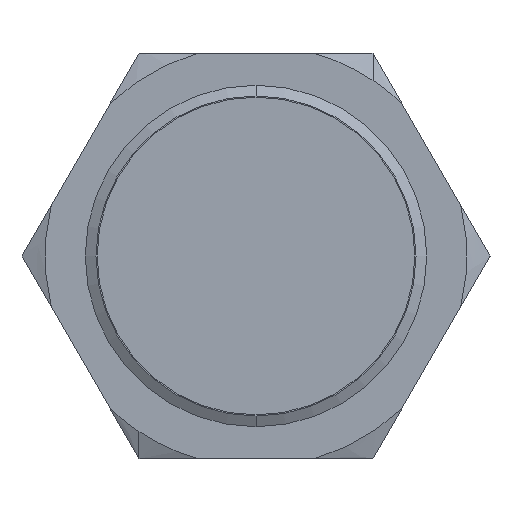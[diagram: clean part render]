
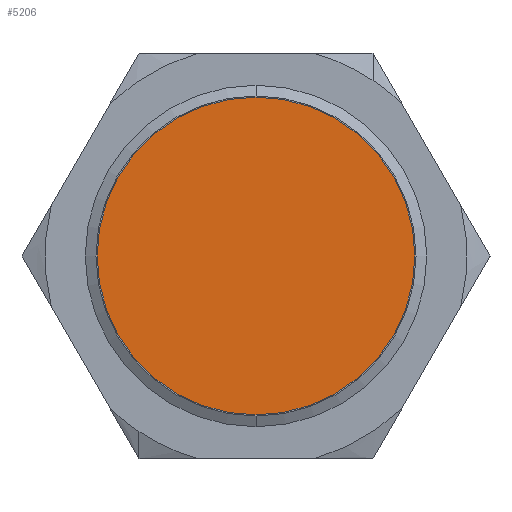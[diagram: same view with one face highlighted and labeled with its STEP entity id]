
A CAD part, left-side view. The second image highlights one B-rep face of the part: STEP entity #5206.
In plain terms, the highlighted planar face has unit normal (-1, 0, 0).
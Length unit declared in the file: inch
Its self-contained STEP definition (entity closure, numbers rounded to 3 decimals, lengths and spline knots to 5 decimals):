
#749 = CARTESIAN_POINT ( 'NONE',  ( 0., 0., -0.55 ) ) ;
#1686 = FACE_OUTER_BOUND ( 'NONE', #5166, .T. ) ;
#1687 = PLANE ( 'NONE',  #1688 ) ;
#1688 = AXIS2_PLACEMENT_3D ( 'NONE', #1689, #1690, #1691 ) ;
#1689 = CARTESIAN_POINT ( 'NONE',  ( 0., 0., 0. ) ) ;
#1690 = DIRECTION ( 'NONE',  ( 1., 0., 0. ) ) ;
#1691 = DIRECTION ( 'NONE',  ( 0., 0., -1. ) ) ;
#1872 = CIRCLE ( 'NONE', #1878, 0.55 ) ;
#1878 = AXIS2_PLACEMENT_3D ( 'NONE', #1879, #1880, #1881 ) ;
#1879 = CARTESIAN_POINT ( 'NONE',  ( 0., 0., 0. ) ) ;
#1880 = DIRECTION ( 'NONE',  ( 1., 0., 0. ) ) ;
#1881 = DIRECTION ( 'NONE',  ( 0., 0., 1. ) ) ;
#4970 = ORIENTED_EDGE ( 'NONE', *, *, #10382, .F. ) ;
#5066 = ORIENTED_EDGE ( 'NONE', *, *, #5276, .F. ) ;
#5166 = EDGE_LOOP ( 'NONE', ( #5066, #4970 ) ) ;
#5206 = ADVANCED_FACE ( 'NONE', ( #1686 ), #1687, .F. ) ;
#5276 = EDGE_CURVE ( 'NONE', #10154, #11307, #1872, .T. ) ;
#10154 = VERTEX_POINT ( 'NONE', #11185 ) ;
#10382 = EDGE_CURVE ( 'NONE', #11307, #10154, #11381, .T. ) ;
#11185 = CARTESIAN_POINT ( 'NONE',  ( 0., 0., 0.55 ) ) ;
#11307 = VERTEX_POINT ( 'NONE', #749 ) ;
#11381 = CIRCLE ( 'NONE', #11382, 0.55 ) ;
#11382 = AXIS2_PLACEMENT_3D ( 'NONE', #11383, #11384, #11385 ) ;
#11383 = CARTESIAN_POINT ( 'NONE',  ( 0., 0., 0. ) ) ;
#11384 = DIRECTION ( 'NONE',  ( 1., 0., 0. ) ) ;
#11385 = DIRECTION ( 'NONE',  ( 0., 0., 1. ) ) ;
